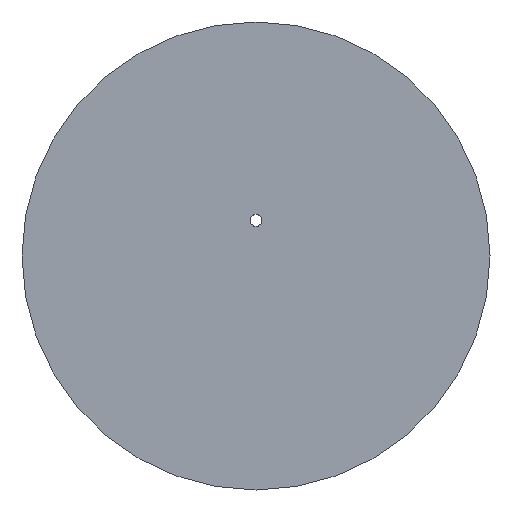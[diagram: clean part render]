
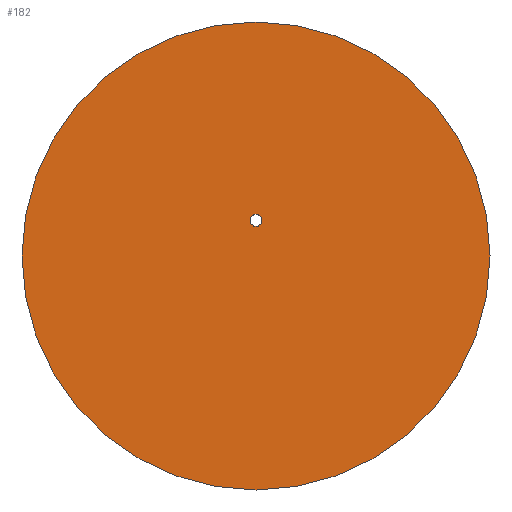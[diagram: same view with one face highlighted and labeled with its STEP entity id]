
A CAD part, left-side view. The second image highlights one B-rep face of the part: STEP entity #182.
In plain terms, the highlighted planar face has unit normal (-1, 0, 0).
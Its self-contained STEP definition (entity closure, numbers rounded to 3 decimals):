
#123=CARTESIAN_POINT('',(-1.8,0.,33.2));
#124=VERTEX_POINT('',#123);
#131=CARTESIAN_POINT('',(-1.8,0.,0.));
#132=DIRECTION('',(-0.,-0.,1.));
#133=DIRECTION('',(1.,0.,0.));
#134=AXIS2_PLACEMENT_3D('',#131,#133,#132);
#135=CIRCLE('',#134,33.2);
#136=EDGE_CURVE('',#124,#124,#135,.T.);
#163=CARTESIAN_POINT('',(-1.8,0.,0.));
#164=DIRECTION('',(0.,0.,1.));
#165=DIRECTION('',(-1.,0.,0.));
#166=AXIS2_PLACEMENT_3D('',#163,#165,#164);
#167=PLANE('',#166);
#168=ORIENTED_EDGE('',*,*,#136,.F.);
#169=EDGE_LOOP('',(#168));
#170=FACE_OUTER_BOUND('',#169,.T.);
#171=CARTESIAN_POINT('',(-1.8,0.,5.9));
#172=VERTEX_POINT('',#171);
#173=CARTESIAN_POINT('',(-1.8,0.,5.05));
#174=DIRECTION('',(-0.,-0.,1.));
#175=DIRECTION('',(1.,0.,0.));
#176=AXIS2_PLACEMENT_3D('',#173,#175,#174);
#177=CIRCLE('',#176,0.85);
#178=EDGE_CURVE('',#172,#172,#177,.T.);
#179=ORIENTED_EDGE('E11',*,*,#178,.T.);
#180=EDGE_LOOP('',(#179));
#181=FACE_BOUND('',#180,.T.);
#182=ADVANCED_FACE('F13',(#170,#181),#167,.T.);
